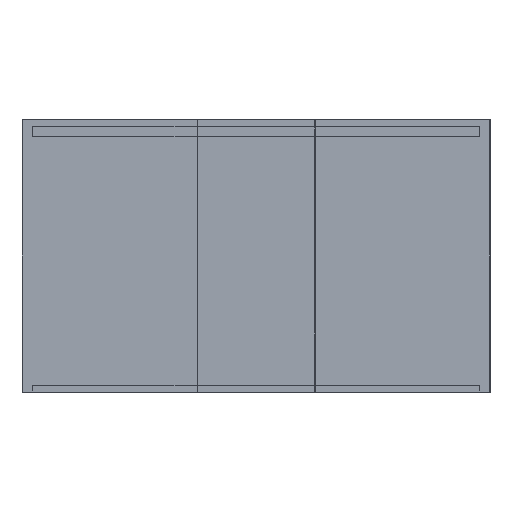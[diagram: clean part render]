
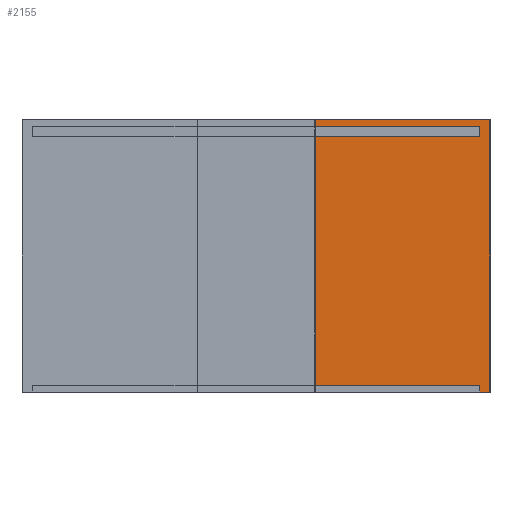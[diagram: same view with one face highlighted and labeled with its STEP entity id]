
A CAD part, front view. The second image highlights one B-rep face of the part: STEP entity #2155.
In plain terms, the highlighted planar face has unit normal (0, -1, 0).
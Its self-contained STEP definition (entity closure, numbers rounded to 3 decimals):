
#33=CIRCLE('',#2293,3.);
#34=CIRCLE('',#2294,3.);
#35=CIRCLE('',#2295,3.);
#49=FACE_OUTER_BOUND('',#161,.T.);
#161=EDGE_LOOP('',(#1359,#1360,#1361,#1362,#1363,#1364,#1365,#1366,#1367,
#1368,#1369,#1370,#1371));
#278=LINE('',#2952,#562);
#282=LINE('',#2960,#566);
#287=LINE('',#2971,#571);
#291=LINE('',#2978,#575);
#294=LINE('',#2984,#578);
#295=LINE('',#2988,#579);
#296=LINE('',#2989,#580);
#297=LINE('',#2991,#581);
#298=LINE('',#2995,#582);
#299=LINE('',#2998,#583);
#562=VECTOR('',#2417,10.);
#566=VECTOR('',#2423,10.);
#571=VECTOR('',#2432,10.);
#575=VECTOR('',#2436,10.);
#578=VECTOR('',#2441,10.);
#579=VECTOR('',#2444,10.);
#580=VECTOR('',#2445,10.);
#581=VECTOR('',#2446,10.);
#582=VECTOR('',#2449,10.);
#583=VECTOR('',#2452,10.);
#846=VERTEX_POINT('',#2949);
#847=VERTEX_POINT('',#2951);
#850=VERTEX_POINT('',#2958);
#853=VERTEX_POINT('',#2968);
#854=VERTEX_POINT('',#2970);
#857=VERTEX_POINT('',#2976);
#859=VERTEX_POINT('',#2983);
#860=VERTEX_POINT('',#2985);
#861=VERTEX_POINT('',#2987);
#862=VERTEX_POINT('',#2990);
#863=VERTEX_POINT('',#2992);
#864=VERTEX_POINT('',#2994);
#865=VERTEX_POINT('',#2996);
#1042=EDGE_CURVE('',#846,#847,#278,.T.);
#1046=EDGE_CURVE('',#850,#846,#282,.T.);
#1051=EDGE_CURVE('',#854,#853,#287,.T.);
#1055=EDGE_CURVE('',#850,#857,#291,.T.);
#1058=EDGE_CURVE('',#853,#859,#294,.T.);
#1059=EDGE_CURVE('',#859,#860,#33,.T.);
#1060=EDGE_CURVE('',#860,#861,#295,.T.);
#1061=EDGE_CURVE('',#861,#847,#296,.T.);
#1062=EDGE_CURVE('',#857,#862,#297,.T.);
#1063=EDGE_CURVE('',#862,#863,#34,.T.);
#1064=EDGE_CURVE('',#863,#864,#298,.T.);
#1065=EDGE_CURVE('',#864,#865,#35,.T.);
#1066=EDGE_CURVE('',#865,#854,#299,.T.);
#1359=ORIENTED_EDGE('',*,*,#1058,.T.);
#1360=ORIENTED_EDGE('',*,*,#1059,.T.);
#1361=ORIENTED_EDGE('',*,*,#1060,.T.);
#1362=ORIENTED_EDGE('',*,*,#1061,.T.);
#1363=ORIENTED_EDGE('',*,*,#1042,.F.);
#1364=ORIENTED_EDGE('',*,*,#1046,.F.);
#1365=ORIENTED_EDGE('',*,*,#1055,.T.);
#1366=ORIENTED_EDGE('',*,*,#1062,.T.);
#1367=ORIENTED_EDGE('',*,*,#1063,.T.);
#1368=ORIENTED_EDGE('',*,*,#1064,.T.);
#1369=ORIENTED_EDGE('',*,*,#1065,.T.);
#1370=ORIENTED_EDGE('',*,*,#1066,.T.);
#1371=ORIENTED_EDGE('',*,*,#1051,.T.);
#1933=PLANE('',#2292);
#2155=ADVANCED_FACE('',(#49),#1933,.T.);
#2292=AXIS2_PLACEMENT_3D('',#2982,#2439,#2440);
#2293=AXIS2_PLACEMENT_3D('',#2986,#2442,#2443);
#2294=AXIS2_PLACEMENT_3D('',#2993,#2447,#2448);
#2295=AXIS2_PLACEMENT_3D('',#2997,#2450,#2451);
#2417=DIRECTION('',(0.,0.,-1.));
#2423=DIRECTION('',(1.,0.,0.));
#2432=DIRECTION('',(0.,0.,-1.));
#2436=DIRECTION('',(0.,0.,-1.));
#2439=DIRECTION('center_axis',(0.,-1.,0.));
#2440=DIRECTION('ref_axis',(0.,0.,-1.));
#2441=DIRECTION('',(1.,0.,0.));
#2442=DIRECTION('center_axis',(0.,1.,0.));
#2443=DIRECTION('ref_axis',(1.,0.,0.));
#2444=DIRECTION('',(0.,0.,-1.));
#2445=DIRECTION('',(1.,0.,0.));
#2446=DIRECTION('',(1.,0.,0.));
#2447=DIRECTION('center_axis',(0.,1.,0.));
#2448=DIRECTION('ref_axis',(1.,0.,0.));
#2449=DIRECTION('',(0.,0.,-1.));
#2450=DIRECTION('center_axis',(0.,1.,0.));
#2451=DIRECTION('ref_axis',(0.,0.,-1.));
#2452=DIRECTION('',(-1.,0.,0.));
#2949=CARTESIAN_POINT('',(599.,-150.,699.));
#2951=CARTESIAN_POINT('',(599.,-150.,1.));
#2952=CARTESIAN_POINT('',(599.,-150.,699.));
#2958=CARTESIAN_POINT('',(153.,-150.,699.));
#2960=CARTESIAN_POINT('',(0.,-150.,699.));
#2968=CARTESIAN_POINT('',(153.,-150.,19.));
#2970=CARTESIAN_POINT('',(153.,-150.,656.));
#2971=CARTESIAN_POINT('',(153.,-150.,699.));
#2976=CARTESIAN_POINT('',(153.,-150.,681.));
#2978=CARTESIAN_POINT('',(153.,-150.,699.));
#2982=CARTESIAN_POINT('Origin',(0.,-150.,699.));
#2983=CARTESIAN_POINT('',(571.,-150.,19.));
#2984=CARTESIAN_POINT('',(-285.5,-150.,19.));
#2985=CARTESIAN_POINT('',(574.,-150.,16.));
#2986=CARTESIAN_POINT('Origin',(571.,-150.,16.));
#2987=CARTESIAN_POINT('',(574.,-150.,1.));
#2988=CARTESIAN_POINT('',(574.,-150.,357.5));
#2989=CARTESIAN_POINT('',(0.,-150.,1.));
#2990=CARTESIAN_POINT('',(571.,-150.,681.));
#2991=CARTESIAN_POINT('',(-285.5,-150.,681.));
#2992=CARTESIAN_POINT('',(574.,-150.,678.));
#2993=CARTESIAN_POINT('Origin',(571.,-150.,678.));
#2994=CARTESIAN_POINT('',(574.,-150.,659.));
#2995=CARTESIAN_POINT('',(574.,-150.,688.5));
#2996=CARTESIAN_POINT('',(571.,-150.,656.));
#2997=CARTESIAN_POINT('Origin',(571.,-150.,659.));
#2998=CARTESIAN_POINT('',(285.5,-150.,656.));
